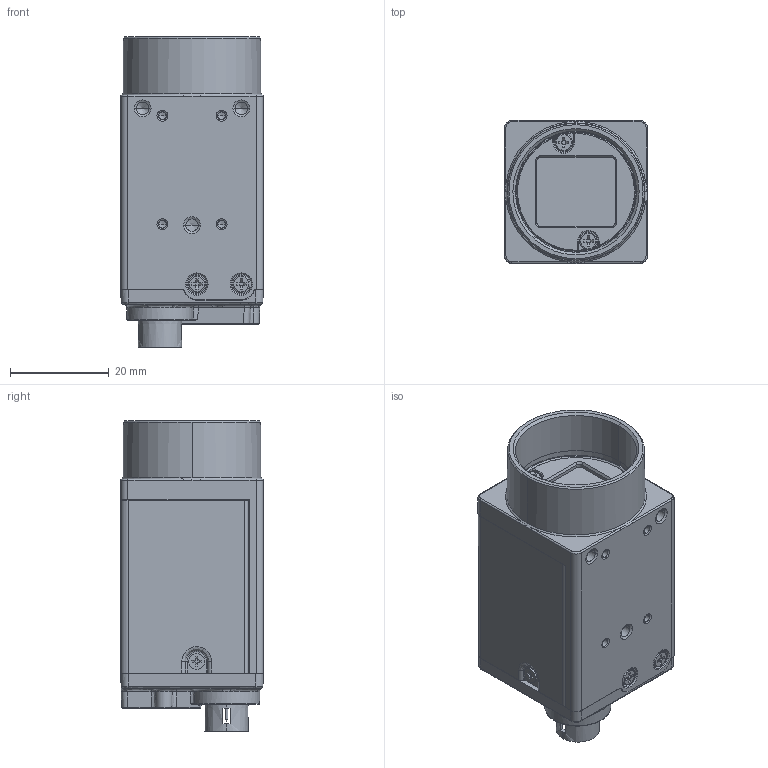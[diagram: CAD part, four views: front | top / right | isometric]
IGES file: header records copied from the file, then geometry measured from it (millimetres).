
Start section:  PTC IGES file: 18-75.igs
Global section: file name: 18-75.igs; native system: Creo Parametric by PTC Inc.; preprocessor: 2020184; author: 21511; organization: Unknown; date: 20231122.163404; units: millimetre
Bounding box: 29 x 29 x 63.05 mm (x, y, z)
Volume: 36033.3 mm3; surface area: 21753.1 mm2
Topology: 1 solids, 13 shells, 2025 faces, 5441 edges, 3432 vertices
Faces by surface type: bspline 1143, revolution 833, extrusion 49
